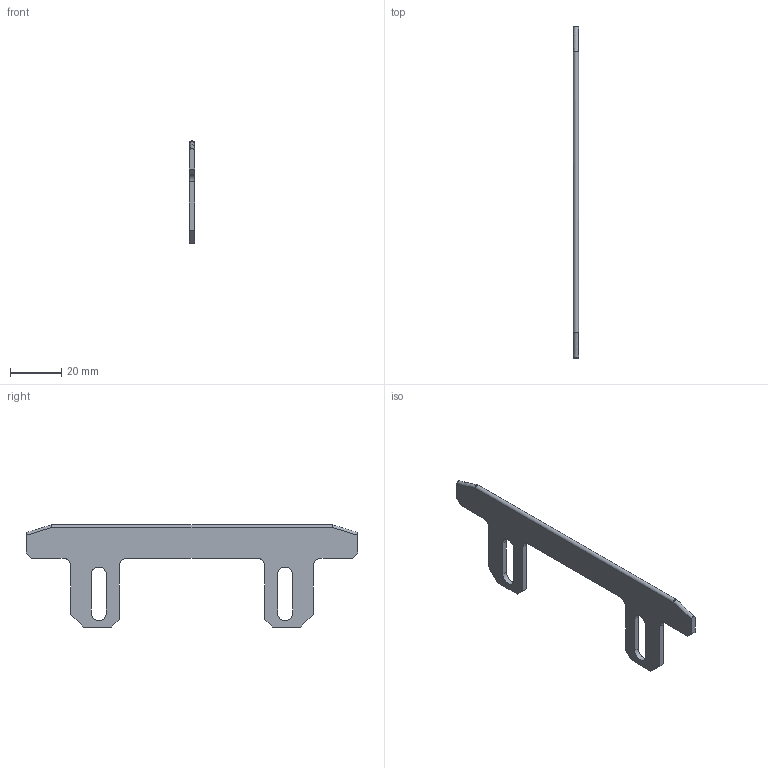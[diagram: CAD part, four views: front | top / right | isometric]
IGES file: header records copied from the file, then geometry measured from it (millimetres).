
Global section: file name: FA-4040_SlideBar; native system: unknown; preprocessor: unknown; author: unknown; organization: unknown; date: 20220807.162735; units: millimetre
Bounding box: 2 x 130 x 40 mm (x, y, z)
Volume: 4785.9 mm3; surface area: 5665.2 mm2
Topology: 1 solids, 1 shells, 36 faces, 98 edges, 64 vertices
Faces by surface type: bspline 36
